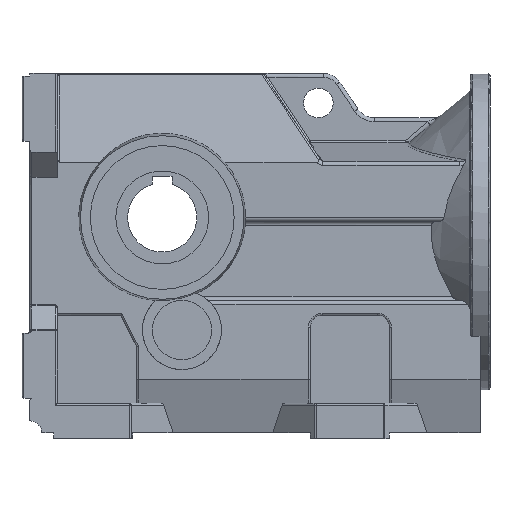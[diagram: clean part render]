
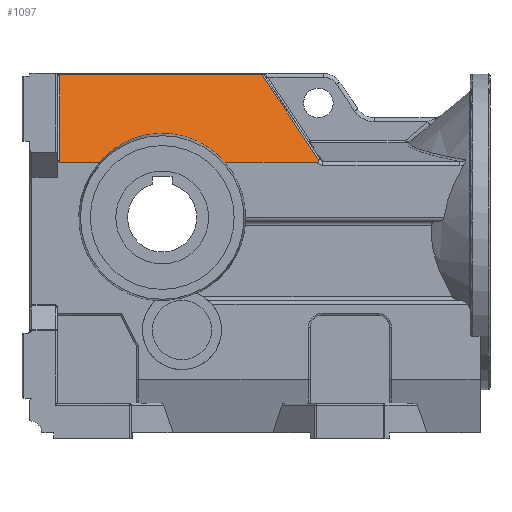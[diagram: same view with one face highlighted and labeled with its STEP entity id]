
A CAD part, front view. The second image highlights one B-rep face of the part: STEP entity #1097.
In plain terms, the highlighted planar face has unit normal (0, -0.949, 0.316).
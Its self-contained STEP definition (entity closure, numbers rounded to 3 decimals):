
#549=CARTESIAN_POINT('',(34.394,-59.693,140.922));
#550=VERTEX_POINT('',#549);
#551=CARTESIAN_POINT('',(33.617,-60.,140.));
#552=VERTEX_POINT('',#551);
#553=CARTESIAN_POINT('',(34.394,-59.693,140.922));
#554=CARTESIAN_POINT('',(34.359,-59.734,140.797));
#555=CARTESIAN_POINT('',(34.326,-59.774,140.679));
#556=CARTESIAN_POINT('',(34.241,-59.855,140.435));
#557=CARTESIAN_POINT('',(34.185,-59.896,140.313));
#558=CARTESIAN_POINT('',(34.056,-59.948,140.157));
#559=CARTESIAN_POINT('',(33.998,-59.964,140.108));
#560=CARTESIAN_POINT('',(33.883,-59.984,140.047));
#561=CARTESIAN_POINT('',(33.834,-59.99,140.03));
#562=CARTESIAN_POINT('',(33.729,-59.998,140.005));
#563=CARTESIAN_POINT('',(33.673,-60.,140.0));
#564=CARTESIAN_POINT('',(33.617,-60.,140.0));
#565=B_SPLINE_CURVE_WITH_KNOTS('',3,(#553,#554,#555,#556,#557,#558,#559,#560,#561,#562,#563,#564),.UNSPECIFIED.,.F.,.U.,(4,2,2,2,2,4),(0.35,0.41,0.487,0.534,0.565,0.599),.UNSPECIFIED.);
#566=EDGE_CURVE('',#550,#552,#565,.T.);
#999=CARTESIAN_POINT('',(-13.36,-60.0,140.0));
#1000=VERTEX_POINT('',#999);
#1001=CARTESIAN_POINT('',(-13.36,-60.,140.0));
#1002=DIRECTION('',(1.0,0.0,0.0));
#1003=VECTOR('',#1002,46.977);
#1004=LINE('',#1001,#1003);
#1005=EDGE_CURVE('',#1000,#552,#1004,.T.);
#1040=CARTESIAN_POINT('',(4.5,-52.5,162.5));
#1041=DIRECTION('',(0.,-0.949,0.316));
#1042=DIRECTION('',(0.,-0.316,-0.949));
#1043=AXIS2_PLACEMENT_3D('',#1040,#1041,#1042);
#1044=PLANE('',#1043);
#1045=ORIENTED_EDGE('',*,*,#566,.F.);
#1046=CARTESIAN_POINT('',(5.465,-45.228,184.316));
#1047=VERTEX_POINT('',#1046);
#1048=CARTESIAN_POINT('',(5.465,-45.228,184.316));
#1049=DIRECTION('',(0.535,-0.267,-0.802));
#1050=VECTOR('',#1049,54.122);
#1051=LINE('',#1048,#1050);
#1052=EDGE_CURVE('',#1047,#550,#1051,.T.);
#1053=ORIENTED_EDGE('',*,*,#1052,.F.);
#1054=CARTESIAN_POINT('',(-97.103,-45.228,184.316));
#1055=VERTEX_POINT('',#1054);
#1056=CARTESIAN_POINT('',(-97.103,-45.228,184.316));
#1057=DIRECTION('',(1.0,0.0,0.0));
#1058=VECTOR('',#1057,102.567);
#1059=LINE('',#1056,#1058);
#1060=EDGE_CURVE('',#1055,#1047,#1059,.T.);
#1061=ORIENTED_EDGE('',*,*,#1060,.F.);
#1062=CARTESIAN_POINT('',(-97.,-45.439,183.684));
#1063=VERTEX_POINT('',#1062);
#1064=CARTESIAN_POINT('',(-99.0,-45.439,183.684));
#1065=DIRECTION('',(0.,-0.949,0.316));
#1066=DIRECTION('',(0.,0.316,0.949));
#1067=AXIS2_PLACEMENT_3D('',#1064,#1065,#1066);
#1068=ELLIPSE('',#1067,2.108,2.0);
#1069=EDGE_CURVE('',#1063,#1055,#1068,.T.);
#1070=ORIENTED_EDGE('',*,*,#1069,.F.);
#1071=CARTESIAN_POINT('',(-97.,-60.,140.0));
#1072=VERTEX_POINT('',#1071);
#1073=CARTESIAN_POINT('',(-97.,-60.,140.0));
#1074=DIRECTION('',(0.0,0.316,0.949));
#1075=VECTOR('',#1074,46.047);
#1076=LINE('',#1073,#1075);
#1077=EDGE_CURVE('',#1072,#1063,#1076,.T.);
#1078=ORIENTED_EDGE('',*,*,#1077,.F.);
#1079=CARTESIAN_POINT('',(-76.64,-60.0,140.0));
#1080=VERTEX_POINT('',#1079);
#1081=CARTESIAN_POINT('',(-97.,-60.,140.0));
#1082=DIRECTION('',(1.0,0.0,0.0));
#1083=VECTOR('',#1082,20.36);
#1084=LINE('',#1081,#1083);
#1085=EDGE_CURVE('',#1072,#1080,#1084,.T.);
#1086=ORIENTED_EDGE('',*,*,#1085,.T.);
#1087=CARTESIAN_POINT('',(-45.,-68.93,113.209));
#1088=DIRECTION('',(0.0,0.949,-0.316));
#1089=DIRECTION('',(0.,-0.316,-0.949));
#1090=AXIS2_PLACEMENT_3D('',#1087,#1088,#1089);
#1091=ELLIPSE('',#1090,43.713,41.452);
#1092=EDGE_CURVE('',#1080,#1000,#1091,.T.);
#1093=ORIENTED_EDGE('',*,*,#1092,.T.);
#1094=ORIENTED_EDGE('',*,*,#1005,.T.);
#1095=EDGE_LOOP('',(#1045,#1053,#1061,#1070,#1078,#1086,#1093,#1094));
#1096=FACE_OUTER_BOUND('',#1095,.T.);
#1097=ADVANCED_FACE('',(#1096),#1044,.T.);
